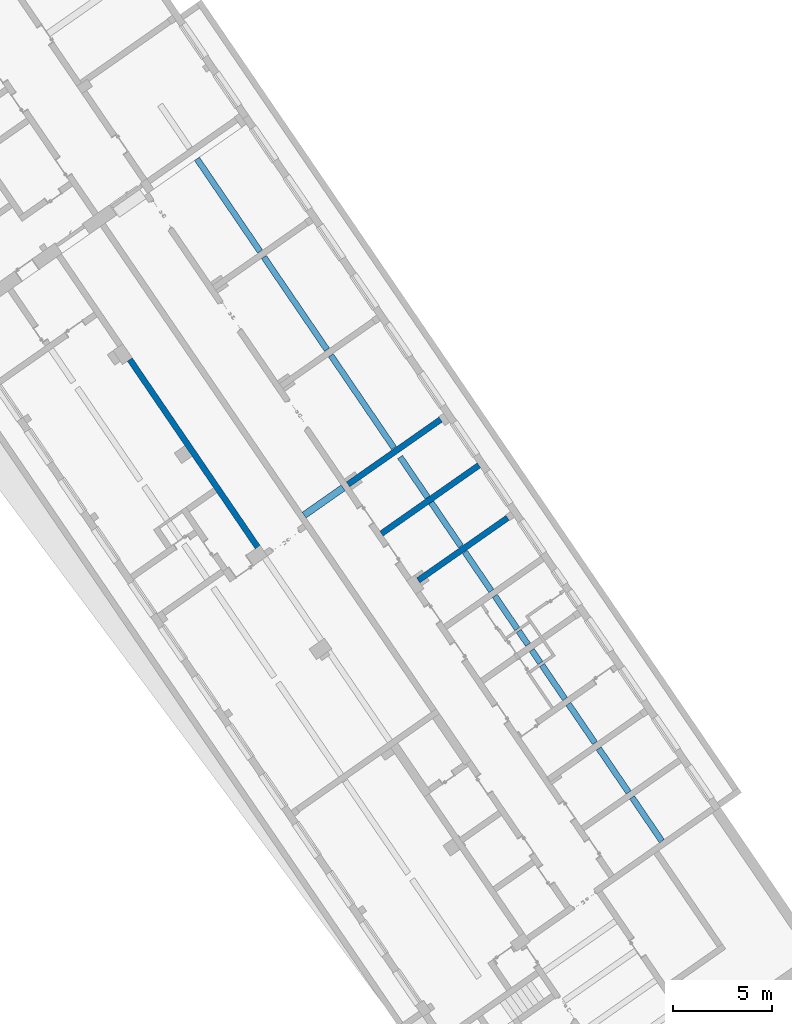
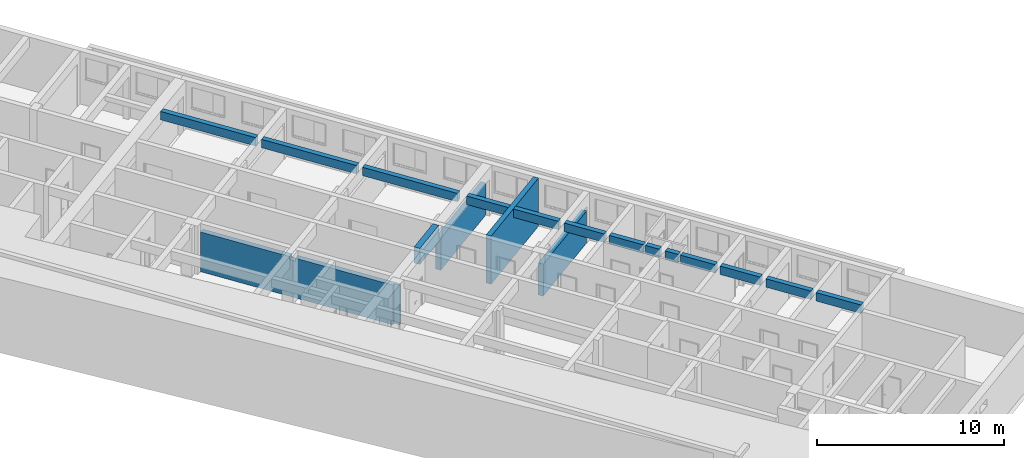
# One storey, part 26 of 112: 6 walls.
"""IFC2X3 building model written with IfcOpenShell, lengths in millimetres."""

from ifc_helpers import new_model, entity, si_unit, converted_unit, derived_unit, direction, frame, origin, place, context, subcontext, project, spatial, polyline, outline, extrude, clip, bounded_halfspace, material, layer, layer_set, layer_usage, type_object, element, save


model = new_model("IFC2X3")

# Units and contexts
model_context = context("Model", 3, precision=0.01, world=origin(), true_north=direction((6.123031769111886e-17, 1.0)))
body_context = subcontext(model_context, "Body", "Model", "MODEL_VIEW")
ifc_project = project(units=[si_unit("LENGTHUNIT", "METRE", prefix="MILLI"), si_unit("AREAUNIT", "SQUARE_METRE"), si_unit("VOLUMEUNIT", "CUBIC_METRE"), converted_unit("PLANEANGLEUNIT", "DEGREE", entity("IfcRatioMeasure", 0.017453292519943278), si_unit("PLANEANGLEUNIT", "RADIAN"), dimensions=[0, 0, 0, 0, 0, 0, 0]), si_unit("MASSUNIT", "GRAM", prefix="KILO"), derived_unit("MASSDENSITYUNIT", [(si_unit("MASSUNIT", "GRAM", prefix="KILO"), 1), (si_unit("LENGTHUNIT", "METRE"), -3)]), derived_unit("MOMENTOFINERTIAUNIT", [(si_unit("LENGTHUNIT", "METRE"), 4)]), si_unit("TIMEUNIT", "SECOND"), si_unit("FREQUENCYUNIT", "HERTZ"), si_unit("THERMODYNAMICTEMPERATUREUNIT", "DEGREE_CELSIUS"), derived_unit("THERMALTRANSMITTANCEUNIT", [(si_unit("MASSUNIT", "GRAM", prefix="KILO"), 1), (si_unit("THERMODYNAMICTEMPERATUREUNIT", "KELVIN"), -1), (si_unit("TIMEUNIT", "SECOND"), -3)]), derived_unit("THERMALCONDUCTANCEUNIT", [(si_unit("MASSUNIT", "GRAM", prefix="KILO"), 1), (si_unit("LENGTHUNIT", "METRE"), 1), (si_unit("THERMODYNAMICTEMPERATUREUNIT", "KELVIN"), -1), (si_unit("TIMEUNIT", "SECOND"), -3)]), derived_unit("VOLUMETRICFLOWRATEUNIT", [(si_unit("LENGTHUNIT", "METRE"), 3), (si_unit("TIMEUNIT", "SECOND"), -1)]), derived_unit("MASSFLOWRATEUNIT", [(si_unit("MASSUNIT", "GRAM", prefix="KILO"), 1), (si_unit("TIMEUNIT", "SECOND"), -1)]), derived_unit("ROTATIONALFREQUENCYUNIT", [(si_unit("TIMEUNIT", "SECOND"), -1)]), si_unit("ELECTRICCURRENTUNIT", "AMPERE"), si_unit("ELECTRICVOLTAGEUNIT", "VOLT"), si_unit("POWERUNIT", "WATT"), converted_unit("FORCEUNIT", "KIP", entity("IfcRatioMeasure", 2.088543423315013e-05), si_unit("FORCEUNIT", "NEWTON"), dimensions=[1, 1, -2, 0, 0, 0, 0]), si_unit("ILLUMINANCEUNIT", "LUX"), si_unit("LUMINOUSFLUXUNIT", "LUMEN"), si_unit("LUMINOUSINTENSITYUNIT", "CANDELA"), derived_unit("USERDEFINED", [(si_unit("MASSUNIT", "GRAM", prefix="KILO"), -1), (si_unit("LENGTHUNIT", "METRE"), -2), (si_unit("TIMEUNIT", "SECOND"), 3), (si_unit("LUMINOUSFLUXUNIT", "LUMEN"), 1)]), derived_unit("USERDEFINED", [(si_unit("MASSUNIT", "GRAM", prefix="KILO"), 1), (si_unit("LENGTHUNIT", "METRE"), 3), (si_unit("TIMEUNIT", "SECOND"), -3), (si_unit("ELECTRICCURRENTUNIT", "AMPERE"), -2)]), derived_unit("USERDEFINED", [(si_unit("LENGTHUNIT", "METRE"), 2), (si_unit("TIMEUNIT", "SECOND"), -2)]), derived_unit("SOUNDPOWERUNIT", [(si_unit("MASSUNIT", "GRAM", prefix="KILO"), 1), (si_unit("LENGTHUNIT", "METRE"), 2), (si_unit("TIMEUNIT", "SECOND"), -3)]), derived_unit("SOUNDPRESSUREUNIT", [(si_unit("MASSUNIT", "GRAM", prefix="KILO"), 1), (si_unit("LENGTHUNIT", "METRE"), -1), (si_unit("TIMEUNIT", "SECOND"), -2)]), derived_unit("LINEARVELOCITYUNIT", [(si_unit("LENGTHUNIT", "METRE"), 1), (si_unit("TIMEUNIT", "SECOND"), -1)]), si_unit("PRESSUREUNIT", "PASCAL"), derived_unit("USERDEFINED", [(si_unit("LENGTHUNIT", "METRE"), -2), (si_unit("MASSUNIT", "GRAM", prefix="KILO"), 1), (si_unit("TIMEUNIT", "SECOND"), -2)]), derived_unit("LINEARFORCEUNIT", [(si_unit("MASSUNIT", "GRAM", prefix="KILO"), 1), (si_unit("LENGTHUNIT", "METRE"), 1), (si_unit("TIMEUNIT", "SECOND"), -2), (si_unit("LENGTHUNIT", "METRE"), -1)]), derived_unit("PLANARFORCEUNIT", [(si_unit("MASSUNIT", "GRAM", prefix="KILO"), 1), (si_unit("LENGTHUNIT", "METRE"), 1), (si_unit("TIMEUNIT", "SECOND"), -2), (si_unit("LENGTHUNIT", "METRE"), -2)]), derived_unit("SPECIFICHEATCAPACITYUNIT", [(si_unit("LENGTHUNIT", "METRE"), 2), (si_unit("TIMEUNIT", "SECOND"), -2), (si_unit("THERMODYNAMICTEMPERATUREUNIT", "KELVIN"), -1)]), derived_unit("VAPORPERMEABILITYUNIT", [(si_unit("TIMEUNIT", "SECOND"), 1), (si_unit("LENGTHUNIT", "METRE"), -1)]), derived_unit("DYNAMICVISCOSITYUNIT", [(si_unit("MASSUNIT", "GRAM", prefix="KILO"), 1), (si_unit("LENGTHUNIT", "METRE"), -1), (si_unit("TIMEUNIT", "SECOND"), -1)]), derived_unit("THERMALEXPANSIONCOEFFICIENTUNIT", [(si_unit("THERMODYNAMICTEMPERATUREUNIT", "KELVIN"), -1)])], contexts=[model_context])

# Site, building, storey
site_placement = place(None, frame((0.0, 0.0, 0.0), z_axis=(0.0, 0.0, 1.0), x_axis=(0.8191520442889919, 0.5735764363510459, 0.0)))
site = spatial("IfcSite", under=ifc_project, at=site_placement, Name="Default", CompositionType="ELEMENT")
building_placement = place(site_placement, origin())
building = spatial("IfcBuilding", under=site, at=building_placement, CompositionType="ELEMENT")
storey_placement = place(building_placement, frame((0.0, 0.0, -3600.0)))
storey = spatial("IfcBuildingStorey", under=building, at=storey_placement, Name="0.UG -3.60", CompositionType="ELEMENT", Elevation=-3600.0000000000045)

# Walls
ifc_material = material(Name="Analytical Wall Surface_CJC")
ifc_layer_1 = layer(ifc_material, 300.0)
ifc_layer_set_1 = layer_set([ifc_layer_1], Name="Basic Wall:Wand_Innen_30")
ifc_layer_usage_1 = layer_usage(ifc_layer_set_1, "AXIS2", "NEGATIVE", 150.0)
wall_type_1 = type_object("IfcWallType", Name="Basic Wall:Wand_Innen_30", PredefinedType="STANDARD", material=ifc_layer_set_1)
wall_1_placement = place(storey_placement, frame((-211361.31850757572, 79396.35891435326, 300.0)))
element("IfcWallStandardCase", 1, at=wall_1_placement, inside=storey, type_object=wall_type_1, material=ifc_layer_usage_1, Name="Basic Wall:Wand_Innen_30", ObjectType="Basic Wall:Wand_Innen_30", context=body_context, shape_type="SweptSolid", body=[
    extrude(outline(polyline([(5502.382901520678, -150.0), (5502.382901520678, 150.0), (451.8892234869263, 150.0), (3.8191857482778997, 150.0), (0.0, -150.0), (451.8892234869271, -150.0), (5502.382901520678, -150.0)])), origin(), (0.0, 0.0, 1.0), 2100.0),
])
wall_2_placement = place(storey_placement, frame((-205518.8510941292, 82396.35891435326, 300.0), z_axis=(0.0, 0.0, 1.0), x_axis=(-1.0, 0.0, 0.0)))
element("IfcWallStandardCase", 2, at=wall_2_placement, inside=storey, type_object=wall_type_1, material=ifc_layer_usage_1, Name="Basic Wall:Wand_Innen_30", ObjectType="Basic Wall:Wand_Innen_30", context=body_context, shape_type="SweptSolid", body=[
    extrude(outline(polyline([(6000.472576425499, -150.0), (6004.291762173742, 150.0), (3.8191987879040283, 150.0), (0.0, -150.0), (6000.472576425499, -150.0)])), origin(), (0.0, 0.0, 1.0), 3150.0),
])
ifc_layer_usage_2 = layer_usage(ifc_layer_set_1, "AXIS2", "POSITIVE", -150.0)
wall_3_placement = place(storey_placement, frame((-205782.55189109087, 85396.35891435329, 300.0), z_axis=(0.0, 0.0, 1.0), x_axis=(-1.0, 0.0, 0.0)))
element("IfcWallStandardCase", 3, at=wall_3_placement, inside=storey, type_object=wall_type_1, material=ifc_layer_usage_2, Name="Basic Wall:Wand_Innen_30", ObjectType="Basic Wall:Wand_Innen_30", context=body_context, shape_type="SweptSolid", body=[
    extrude(outline(polyline([(5698.579921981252, -150.0), (5702.39910772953, 150.0), (5050.487489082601, 150.0), (0.0, 150.0), (0.0, -150.0), (5050.487489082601, -150.0), (5698.579921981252, -150.0)])), origin(), (0.0, 0.0, 1.0), 2100.0),
])
wall_4_placement = place(storey_placement, frame((-208836.13367418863, 61569.44947620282, 2900.0), z_axis=(0.0, 0.0, 1.0), x_axis=(0.012729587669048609, 0.9999189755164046, 0.0)))
element("IfcWall", 4, at=wall_4_placement, inside=storey, type_object=wall_type_1, Name="Basic Wall:Wand_Innen_30", ObjectType="Basic Wall:Wand_Innen_30", context=body_context, shape_type="SweptSolid", body=[
    extrude(outline(polyline([(-1335.6987861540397, -150.0), (1339.5179719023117, -150.0), (1335.698786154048, 150.0), (-1339.5179719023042, 150.0), (-1335.6987861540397, -150.0)])), frame((1339.517971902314, 0.0, 0.0)), (0.0, 0.0, 1.0), 549.9999999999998),
    extrude(outline(polyline([(-2823.319319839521, -150.0), (2827.138505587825, -150.0), (2823.3193198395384, 150.0), (-2827.13850558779, 150.0), (-2823.319319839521, -150.0)])), frame((38830.055623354, 0.0, 0.0), z_axis=(0.0, 0.0, 1.0), x_axis=(-1.0, 0.0, 0.0)), (0.0, 0.0, 1.0), 549.9999999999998),
    extrude(outline(polyline([(-1335.6987861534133, -150.0), (1339.5179719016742, -150.0), (1335.6987861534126, 150.0), (-1339.5179719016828, 150.0), (-1335.6987861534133, -150.0)])), frame((4314.759039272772, 0.0, 0.0)), (0.0, 0.0, 1.0), 549.9999999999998),
    extrude(outline(polyline([(-1033.1742742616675, -150.0), (1036.9934600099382, -150.0), (1033.1742742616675, 150.0), (-1036.9934600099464, 150.0), (-1033.1742742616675, -150.0)])), frame((9712.696404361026, 0.0, 0.0)), (0.0, 0.0, 1.0), 549.9999999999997),
    extrude(outline(polyline([(-1185.6866314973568, -150.0), (1189.5058172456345, -150.0), (1185.6866314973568, 150.0), (-1189.5058172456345, 150.0), (-1185.6866314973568, -150.0)])), frame((7189.992003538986, 0.0, 0.0), z_axis=(0.0, 0.0, 1.0), x_axis=(-1.0, 0.0, 0.0)), (0.0, 0.0, 1.0), 549.9999999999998),
    extrude(outline(polyline([(-385.62180665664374, -150.0), (389.44099240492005, -150.0), (385.62180665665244, 150.0), (-389.4409924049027, 150.0), (-385.62180665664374, -150.0)])), frame((11265.322205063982, 0.0, 0.0)), (0.0, 0.0, 1.0), 549.9999999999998),
    extrude(outline(polyline([(-410.6238324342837, -150.0), (414.4430181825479, -150.0), (410.62383243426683, 150.0), (-414.4430181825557, 150.0), (-410.6238324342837, -150.0)])), frame((12415.41539077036, 0.0, 0.0), z_axis=(0.0, 0.0, 1.0), x_axis=(-1.0, 0.0, 0.0)), (0.0, 0.0, 1.0), 549.9999999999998),
    extrude(outline(polyline([(-1010.6724510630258, -150.0), (1014.4916368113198, -150.0), (1010.6724510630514, 150.0), (-1014.4916368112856, 150.0), (-1010.6724510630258, -150.0)])), frame((13965.540988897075, 0.0, 0.0)), (0.0, 0.0, 1.0), 549.9999999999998),
    extrude(outline(polyline([(-1185.6866314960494, -150.0), (1189.5058172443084, -150.0), (1185.686631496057, 150.0), (-1189.5058172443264, 150.0), (-1185.6866314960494, -150.0)])), frame((16465.74356651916, 0.0, 0.0)), (0.0, 0.0, 1.0), 549.9999999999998),
    extrude(outline(polyline([(-1235.6906830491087, -150.0), (1239.50986879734, -150.0), (1235.6906830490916, 150.0), (-1239.5098687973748, 150.0), (-1235.6906830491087, -150.0)])), frame((22216.20949505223, 0.0, 0.0)), (0.0, 0.0, 1.0), 549.9999999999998),
    extrude(outline(polyline([(-1335.698786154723, -150.0), (1339.5179719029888, -150.0), (1335.6987861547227, 150.0), (-1339.5179719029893, 150.0), (-1335.698786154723, -150.0)])), frame((19340.9765307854, 0.0, 0.0), z_axis=(0.0, 0.0, 1.0), x_axis=(-1.0, 0.0, 0.0)), (0.0, 0.0, 1.0), 549.9999999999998),
    extrude(outline(polyline([(-2823.319319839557, -150.0), (2827.138505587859, -150.0), (2823.3193198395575, 150.0), (-2827.138505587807, 150.0), (-2823.319319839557, -150.0)])), frame((32829.56943705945, 0.0, 0.0), z_axis=(0.0, 0.0, 1.0), x_axis=(-1.0, 0.0, 0.0)), (0.0, 0.0, 1.0), 549.9999999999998),
    extrude(outline(polyline([(-2823.3193198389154, -150.0), (2827.1385055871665, -150.0), (2823.3193198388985, 150.0), (-2827.1385055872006, 150.0), (-2823.3193198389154, -150.0)])), frame((26829.08325076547, 0.0, 0.0), z_axis=(0.0, 0.0, 1.0), x_axis=(-1.0, 0.0, 0.0)), (0.0, 0.0, 1.0), 549.9999999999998),
])
ifc_layer_2 = layer(ifc_material, 350.0)
ifc_layer_set_2 = layer_set([ifc_layer_2], Name="Basic Wall:Wand_Innen_35")
ifc_layer_usage_3 = layer_usage(ifc_layer_set_2, "AXIS2", "NEGATIVE", 175.0)
wall_type_2 = type_object("IfcWallType", Name="Basic Wall:Wand_Innen_35", PredefinedType="STANDARD", material=ifc_layer_set_2)
wall_5_placement = place(storey_placement, frame((-211780.83785690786, 85396.35891435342, 2400.0), z_axis=(0.0, 0.0, 1.0), x_axis=(-1.0, 0.0, 0.0)))
element("IfcWallStandardCase", 5, at=wall_5_placement, inside=storey, type_object=wall_type_2, material=ifc_layer_usage_3, Name="Basic Wall:Wand_Innen_35", ObjectType="Basic Wall:Wand_Innen_35", context=body_context, shape_type="SweptSolid", body=[
    extrude(outline(polyline([(2400.1943394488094, -175.0), (2404.6500561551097, 175.0), (4.455716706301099, 175.0), (2.201523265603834, -2.068641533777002), (0.0, -175.0), (2.201523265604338, -175.0), (2400.1943394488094, -175.0)])), origin(), (0.0, 0.0, 1.0), 1050.0),
])
ifc_layer_3 = layer(ifc_material, 300.0)
ifc_layer_set_3 = layer_set([ifc_layer_3], Name="Basic Wall:Wand_Aussen_30")
ifc_layer_usage_4 = layer_usage(ifc_layer_set_3, "AXIS2", "POSITIVE", -150.0)
wall_type_3 = type_object("IfcWallType", Name="Basic Wall:Wand_Aussen_30", PredefinedType="STANDARD", material=ifc_layer_set_3)
wall_6_placement = place(storey_placement, frame((-216887.43689391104, 96869.03220011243, 300.0), z_axis=(0.0, 0.0, 1.0), x_axis=(-0.012729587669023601, -0.999918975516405, 0.0)))
element("IfcWallStandardCase", 6, at=wall_6_placement, inside=storey, type_object=wall_type_3, material=ifc_layer_usage_4, Name="Basic Wall:Wand_Aussen_30", ObjectType="Basic Wall:Wand_Aussen_30", context=body_context, shape_type="Clipping", body=[
    clip(extrude(outline(polyline([(11450.510495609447, -150.0), (11448.653570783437, -4.137115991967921), (11798.653571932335, -1.9094381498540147), (11796.71967072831, 150.0), (5797.199305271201, 150.0), (5475.833140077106, 150.0), (0.0, 150.0), (0.0, -150.0), (5150.965820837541, -150.0), (5801.018491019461, -150.0), (7725.2086549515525, -150.0), (8025.232964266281, -150.0), (11450.510495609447, -150.0)])), origin(), (0.0, 0.0, 1.0), 2600.0), bounded_halfspace(frame((5296.192968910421, 150.0, 2389.7777478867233), z_axis=(0.0, 0.0, -1.0), x_axis=(0.999918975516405, 0.012729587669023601, 0.0)), True, frame((5296.192968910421, 150.0, 2389.7777478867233), z_axis=(0.0, 0.0, -1.0), x_axis=(0.999918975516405, 0.012729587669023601, 0.0)), polyline([(0.0, 0.0), (179.62561591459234, 2.2867453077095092), (350.0, 4.455716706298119), (350.0, 304.4800260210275), (0.0, 300.02430931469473), (0.0, 0.0)]))),
])

save(model, "model.ifc")
